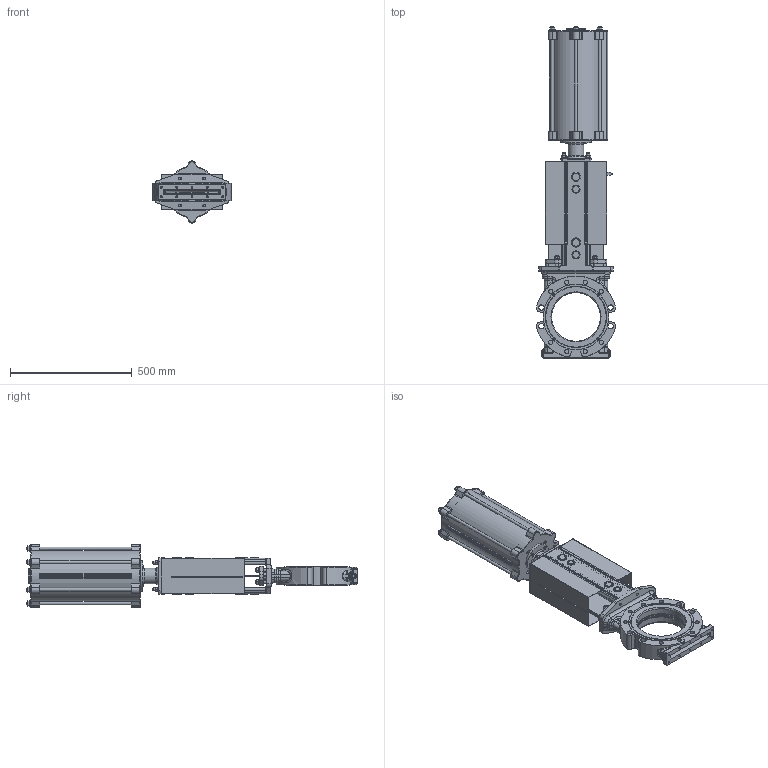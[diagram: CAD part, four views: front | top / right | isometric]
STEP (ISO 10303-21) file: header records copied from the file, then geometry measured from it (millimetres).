
FILE_DESCRIPTION(/* description */ (''),/* implementation_level */ '2;1');
FILE_NAME(/* name */ 'F:\Emir\3D-block special\SLV\SLV-DN200-PN10-FRSC200-270.stp',/* time_stamp */ '2018-09-03T10:52:11+02:00',/* author */ ('emimus'),/* organization */ (''),/* preprocessor_version */ 'ST-DEVELOPER v17',/* originating_system */ 'Autodesk Inventor 2018',/* authorisation */ '');
FILE_SCHEMA (('CONFIG_CONTROL_DESIGN'));
Products named in the file (1): SLV-DN200-PN10-FRSC200-270_Sat_1
Bounding box: 326.89 x 1366 x 256 mm (x, y, z)
Volume: 12496638.2 mm3; surface area: 3084138.2 mm2
Topology: 5 solids, 5 shells, 2933 faces, 7395 edges, 4620 vertices
Faces by surface type: plane 996, cylinder 780, bspline 359, cone 345, torus 317, sphere 136
Full cylindrical faces by diameter (mm): 4 x2, 4.134 x8, 4.2 x16, 4.5 x8, 4.917 x11, 6 x5, 6.647 x10, 7.5 x4, 8.376 x4, 8.88 x5, 9.5 x2, 10 x9, 10.106 x2, 11 x4, 12 x38, 13 x22, 13.835 x4, 14 x4, 15 x4, 17.294 x16, 18 x2, 18.631 x4, 19 x4, 20.5 x1, 22 x4, 23 x4, 24 x19, 25.8 x2, 27 x1, 28 x4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
Entity records: 101557 total; most frequent: CARTESIAN_POINT 31732, DIRECTION 15058, ORIENTED_EDGE 14698, EDGE_CURVE 7349, AXIS2_PLACEMENT_3D 6330, VERTEX_POINT 4620, CIRCLE 3446, EDGE_LOOP 3263
